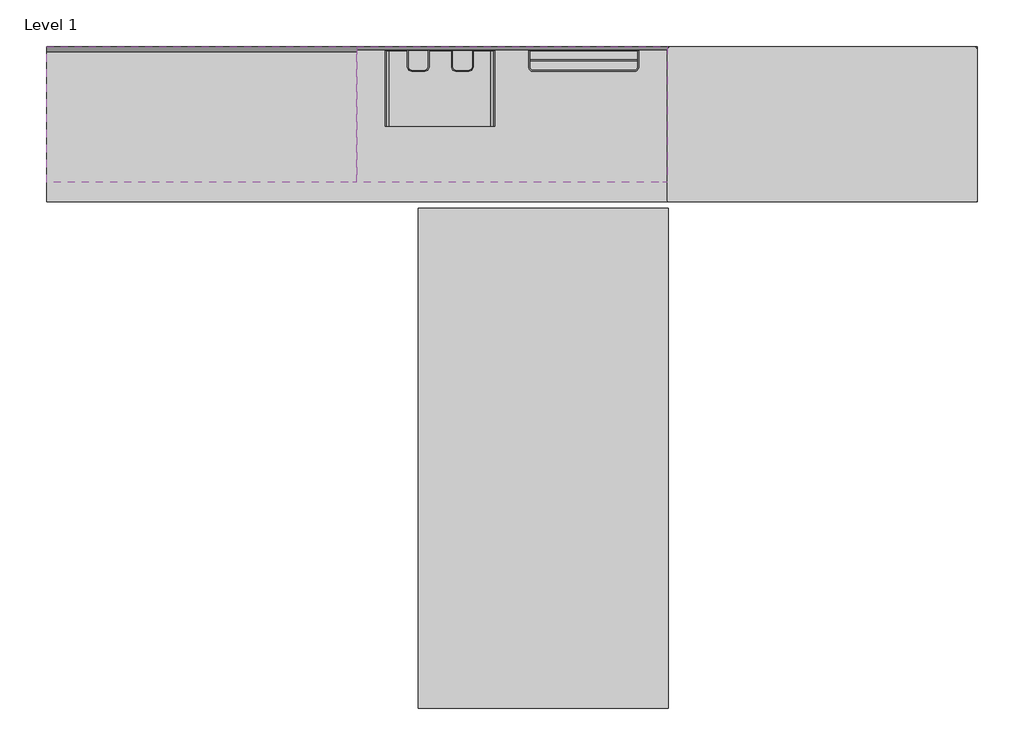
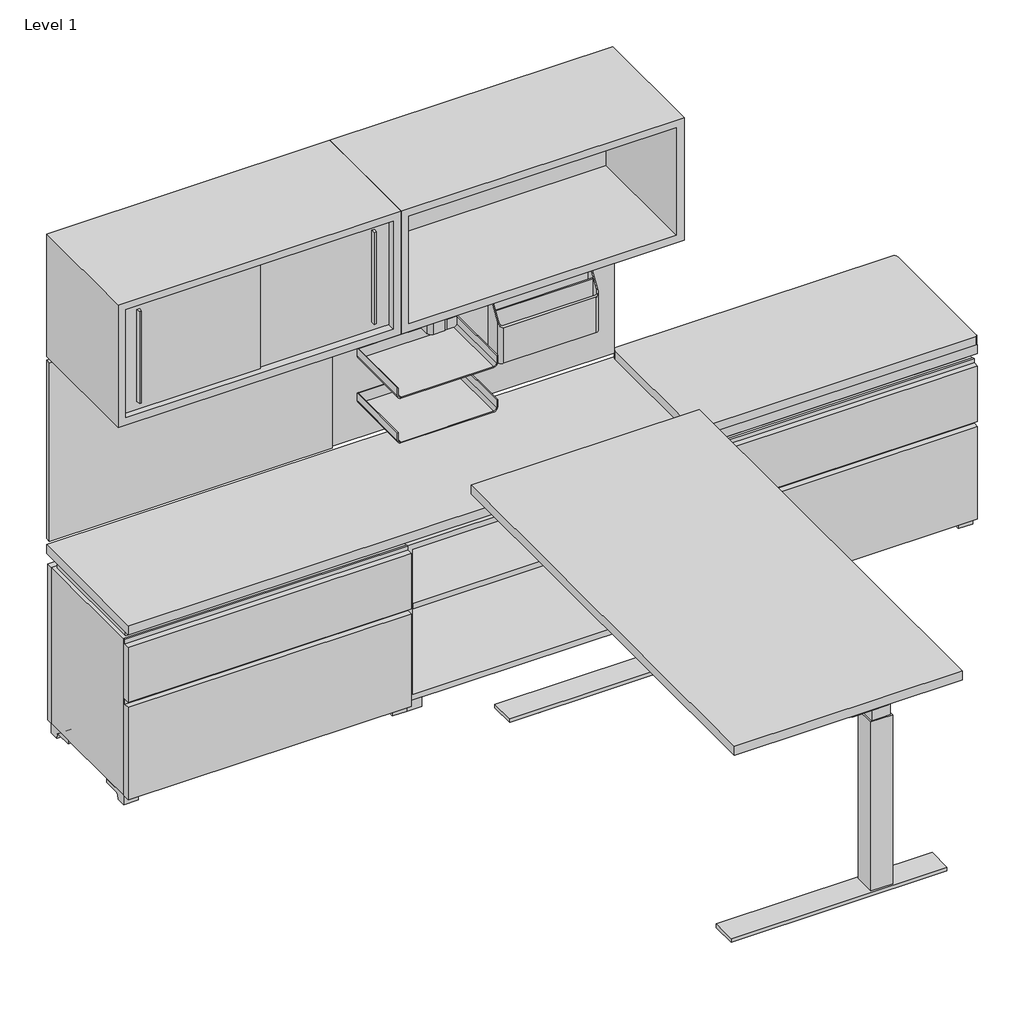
# One storey, incomplete: 15 furniture elements.
"""IFC4 building model written with IfcOpenShell, lengths in millimetres."""

from ifc_helpers import new_model, si_unit, origin, place, context, project, spatial, transform, mapped, element, save
from components import haworth_belong_tool_cup_tool_cup_314b2932, haworth_belong_tool_hangingsorter_sorter_b643d65a, haworth_belong_tool_trayshelf_hanging_document_tray_419b277c, haworth_composestorage_cushion_36w_18d_2d4f932b, haworth_composestorage_lateral_1_5_high_36w_18d_full_lateral_a22ffcba, haworth_composestorage_lateral_1_5_high_36w_18d_full_lateral_f29ae2b0, haworth_composestorage_open_special_1_5_high_36w_18d_d6f6f0fc, haworth_composestorage_top_108w_18d_31d68da0, haworth_compose_overhead_with_sliding_doors_36w_16h_7225e257, haworth_compose_overhead_without_doors_36w_16h_33f18c77, haworth_compose_panel_tile_tackboard_36w_24h_8c5cbb0c, haworth_compose_panel_tile_8h_slat_tile_229c39c6, haworth_planes_heightadjusttable_rectangular_58w_29d_1146ef06

model = new_model("IFC4")

# Units and contexts
model_context = context("Model", 3, world=origin())
ifc_project = project(units=[si_unit("LENGTHUNIT", "METRE", prefix="MILLI")], contexts=[model_context])

# Site, building, storey
site = spatial("IfcSite", under=ifc_project)
building = spatial("IfcBuilding", under=site)
storey = spatial("IfcBuildingStorey", under=building, Name="Level 1", Elevation=0.0)

# Furniture
placement = place(None, origin())
haworth_belong_tool_cup_tool_cup_shape = haworth_belong_tool_cup_tool_cup_314b2932(model_context)
element("IfcFurniture", 1, ObjectType="Haworth_Belong_Tool_Cup : Tool Cup", at=placement, inside=storey, context=model_context, shape_type="MappedRepresentation", body=[
    mapped(haworth_belong_tool_cup_tool_cup_shape, transform((-1415.1933785, 3181.3048542, 967.58125), x_axis=(1.0, 0.0, 0.0), y_axis=(0.0, 1.0, 0.0), z_axis=(0.0, 0.0, 1.0))),
])
element("IfcFurniture", 2, ObjectType="Haworth_Belong_Tool_Cup : Tool Cup", at=placement, inside=storey, context=model_context, shape_type="MappedRepresentation", body=[
    mapped(haworth_belong_tool_cup_tool_cup_shape, transform((-1545.3683785, 3181.3048542, 1018.38125), x_axis=(1.0, 0.0, 0.0), y_axis=(0.0, 1.0, 0.0), z_axis=(0.0, 0.0, 1.0))),
])
haworth_belong_tool_hangingsorter_sorter_shape = haworth_belong_tool_hangingsorter_sorter_b643d65a(model_context)
element("IfcFurniture", 3, ObjectType="Haworth_Belong_Tool_HangingSorter : Sorter", at=placement, inside=storey, context=model_context, shape_type="MappedRepresentation", body=[
    mapped(haworth_belong_tool_hangingsorter_sorter_shape, transform((-1057.7421002, 3181.3048542, 789.78125), x_axis=(1.0, 0.0, 0.0), y_axis=(0.0, 1.0, 0.0), z_axis=(0.0, 0.0, 1.0))),
])
haworth_belong_tool_trayshelf_hanging_document_tray_shape = haworth_belong_tool_trayshelf_hanging_document_tray_419b277c(model_context)
element("IfcFurniture", 4, ObjectType="Haworth_Belong_Tool_TrayShelf : Hanging Document Tray", at=placement, inside=storey, context=model_context, shape_type="MappedRepresentation", body=[
    mapped(haworth_belong_tool_trayshelf_hanging_document_tray_shape, transform((-1481.3096257, 3181.3048542, 764.38125), x_axis=(1.0, 0.0, 0.0), y_axis=(0.0, 1.0, 0.0), z_axis=(0.0, 0.0, 1.0))),
])
element("IfcFurniture", 5, ObjectType="Haworth_Belong_Tool_TrayShelf : Hanging Document Tray", at=placement, inside=storey, context=model_context, shape_type="MappedRepresentation", body=[
    mapped(haworth_belong_tool_trayshelf_hanging_document_tray_shape, transform((-1481.3096257, 3181.3048542, 916.78125), x_axis=(1.0, 0.0, 0.0), y_axis=(0.0, 1.0, 0.0), z_axis=(0.0, 0.0, 1.0))),
])
haworth_composestorage_cushion_36w_18d_shape = haworth_composestorage_cushion_36w_18d_2d4f932b(model_context)
element("IfcFurniture", 6, ObjectType="Haworth_ComposeStorage_Cushion : 36w 18d", at=placement, inside=storey, context=model_context, shape_type="MappedRepresentation", body=[
    mapped(haworth_composestorage_cushion_36w_18d_shape, transform((-189.5440288, 2962.2297744, 17.4625), x_axis=(1.0, 0.0, 0.0), y_axis=(0.0, 1.0, 0.0), z_axis=(0.0, 0.0, 1.0))),
])
haworth_composestorage_lateral_1_5_high_36w_18d_full_lateral_shape = haworth_composestorage_lateral_1_5_high_36w_18d_full_lateral_a22ffcba(model_context)
element("IfcFurniture", 7, ObjectType="Haworth_ComposeStorage_Lateral : 1.5 High 36w 18d Full Lateral", at=placement, inside=storey, context=model_context, shape_type="MappedRepresentation", body=[
    mapped(haworth_composestorage_lateral_1_5_high_36w_18d_full_lateral_shape, transform((-189.5579194, 2911.4297744, 0.0), x_axis=(1.0, 0.0, 0.0), y_axis=(0.0, 1.0, 0.0), z_axis=(0.0, 0.0, 1.0))),
])
haworth_composestorage_lateral_1_5_high_36w_18d_full_lateral_2_shape = haworth_composestorage_lateral_1_5_high_36w_18d_full_lateral_f29ae2b0(model_context)
element("IfcFurniture", 8, ObjectType="Haworth_ComposeStorage_Lateral : 1.5 High 36w 18d Full Lateral", at=placement, inside=storey, context=model_context, shape_type="MappedRepresentation", body=[
    mapped(haworth_composestorage_lateral_1_5_high_36w_18d_full_lateral_2_shape, transform((-2018.3301382, 2911.4297744, 0.0), x_axis=(-1.0, 0.0, 0.0), y_axis=(0.0, -1.0, 0.0), z_axis=(0.0, 0.0, 1.0))),
])
haworth_composestorage_open_special_1_5_high_36w_18d_shape = haworth_composestorage_open_special_1_5_high_36w_18d_d6f6f0fc(model_context)
element("IfcFurniture", 9, ObjectType="Haworth_ComposeStorage_Open_Special : 1.5 High - 36w 18d", at=placement, inside=storey, context=model_context, shape_type="MappedRepresentation", body=[
    mapped(haworth_composestorage_open_special_1_5_high_36w_18d_shape, transform((-1103.9579194, 2911.4297744, 0.0), x_axis=(1.0, 0.0, 0.0), y_axis=(0.0, 1.0, 0.0), z_axis=(0.0, 0.0, 1.0))),
])
haworth_composestorage_top_108w_18d_shape = haworth_composestorage_top_108w_18d_31d68da0(model_context)
element("IfcFurniture", 10, ObjectType="Haworth_ComposeStorage_Top : 108w 18d", at=placement, inside=storey, context=model_context, shape_type="MappedRepresentation", body=[
    mapped(haworth_composestorage_top_108w_18d_shape, transform((-1103.9440288, 2962.2297744, -109.5375), x_axis=(1.0, 0.0, 0.0), y_axis=(0.0, 1.0, 0.0), z_axis=(0.0, 0.0, 1.0))),
])
haworth_compose_overhead_with_sliding_doors_36w_16h_shape = haworth_compose_overhead_with_sliding_doors_36w_16h_7225e257(model_context)
element("IfcFurniture", 11, ObjectType="Haworth_Compose_Overhead : With Sliding Doors 36w 16h", at=placement, inside=storey, context=model_context, shape_type="MappedRepresentation", body=[
    mapped(haworth_compose_overhead_with_sliding_doors_36w_16h_shape, transform((-2183.4440293, 3190.8297779, 0.0), x_axis=(1.0, 1.1924869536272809e-08, 0.0), y_axis=(-1.1924869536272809e-08, 1.0, 0.0), z_axis=(0.0, 0.0, 1.0))),
])
haworth_compose_overhead_without_doors_36w_16h_shape = haworth_compose_overhead_without_doors_36w_16h_33f18c77(model_context)
element("IfcFurniture", 12, ObjectType="Haworth_Compose_Overhead : Without Doors 36w 16h", at=placement, inside=storey, context=model_context, shape_type="MappedRepresentation", body=[
    mapped(haworth_compose_overhead_without_doors_36w_16h_shape, transform((-1269.0440266, 3190.8297888, 0.0), x_axis=(1.0, 1.1924869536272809e-08, 0.0), y_axis=(-1.1924869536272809e-08, 1.0, 0.0), z_axis=(0.0, 0.0, 1.0))),
])
haworth_compose_panel_tile_tackboard_36w_24h_shape = haworth_compose_panel_tile_tackboard_36w_24h_8c5cbb0c(model_context)
element("IfcFurniture", 13, ObjectType="Haworth_Compose_Panel_Tile : Tackboard 36w 24h", at=placement, inside=storey, context=model_context, shape_type="MappedRepresentation", body=[
    mapped(haworth_compose_panel_tile_tackboard_36w_24h_shape, transform((-2020.7843191, 3203.8516392, -419.1), x_axis=(1.0, 1.1924876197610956e-08, 0.0), y_axis=(-1.1924876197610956e-08, 1.0, 0.0), z_axis=(0.0, 0.0, 1.0))),
])
haworth_compose_panel_tile_8h_slat_tile_shape = haworth_compose_panel_tile_8h_slat_tile_229c39c6(model_context)
element("IfcFurniture", 14, ObjectType="Haworth_Compose_Panel_Tile_8h : Slat Tile", at=placement, inside=storey, context=model_context, shape_type="MappedRepresentation", body=[
    mapped(haworth_compose_panel_tile_8h_slat_tile_shape, transform((-1106.3843192, 3207.0266501, -419.1), x_axis=(1.0, 1.1924876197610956e-08, 0.0), y_axis=(-1.1924876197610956e-08, 1.0, 0.0), z_axis=(0.0, 0.0, 1.0))),
])
haworth_planes_heightadjusttable_rectangular_58w_29d_shape = haworth_planes_heightadjusttable_rectangular_58w_29d_1146ef06(model_context)
element("IfcFurniture", 15, ObjectType="Haworth_Planes_HeightAdjustTable_Rectangular : 58w 29d", at=placement, inside=storey, context=model_context, shape_type="MappedRepresentation", body=[
    mapped(haworth_planes_heightadjusttable_rectangular_58w_29d_shape, transform((-1011.3014675, 1977.4078659, 0.0), x_axis=(1.1924878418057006e-08, -1.0, 0.0), y_axis=(1.0, 1.1924878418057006e-08, 0.0), z_axis=(0.0, 0.0, 1.0))),
])

save(model, "model.ifc")
